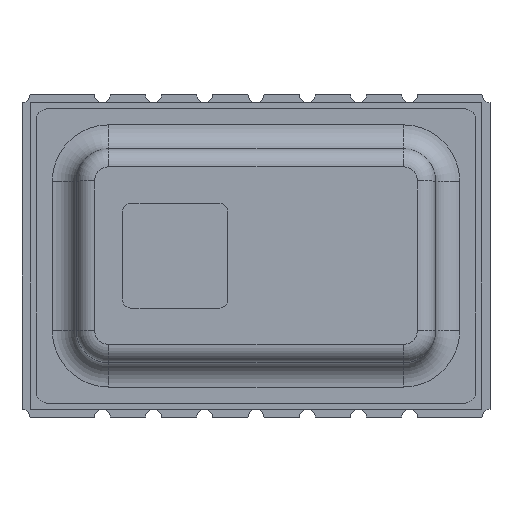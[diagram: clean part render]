
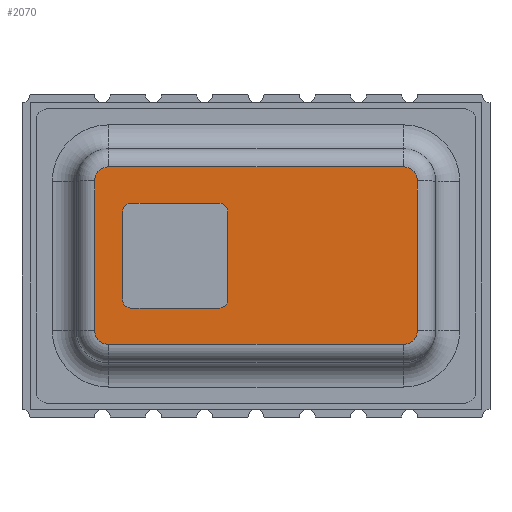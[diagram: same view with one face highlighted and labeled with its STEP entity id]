
A CAD part, top view. The second image highlights one B-rep face of the part: STEP entity #2070.
In plain terms, the highlighted planar face has unit normal (0, 0, 1) as drawn and (0, 0, -1) by its records, which use the part's own axes.
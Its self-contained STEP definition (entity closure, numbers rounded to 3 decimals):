
#21 = EDGE_CURVE ( 'NONE', #1045, #2046, #142, .T. ) ;
#25 = VECTOR ( 'NONE', #321, 1000. ) ;
#47 = ORIENTED_EDGE ( 'NONE', *, *, #1710, .F. ) ;
#85 = ORIENTED_EDGE ( 'NONE', *, *, #3122, .T. ) ;
#95 = ORIENTED_EDGE ( 'NONE', *, *, #2267, .T. ) ;
#98 = ORIENTED_EDGE ( 'NONE', *, *, #115, .F. ) ;
#105 = DIRECTION ( 'NONE',  ( 1., 0., 0. ) ) ;
#115 = EDGE_CURVE ( 'NONE', #354, #1722, #2523, .T. ) ;
#119 = CARTESIAN_POINT ( 'NONE',  ( 3.65, -1.85, 0. ) ) ;
#129 = DIRECTION ( 'NONE',  ( 1., 0., 0. ) ) ;
#136 = FACE_BOUND ( 'NONE', #1872, .T. ) ;
#142 = LINE ( 'NONE', #1856, #3131 ) ;
#203 = CARTESIAN_POINT ( 'NONE',  ( 0., -2.2, 0. ) ) ;
#211 = CARTESIAN_POINT ( 'NONE',  ( -3.3, 1.1, 0. ) ) ;
#224 = VECTOR ( 'NONE', #3250, 1000. ) ;
#237 = VERTEX_POINT ( 'NONE', #1599 ) ;
#309 = CARTESIAN_POINT ( 'NONE',  ( -0.9, -1.1, 0. ) ) ;
#310 = EDGE_CURVE ( 'NONE', #2221, #2654, #1726, .T. ) ;
#316 = CARTESIAN_POINT ( 'NONE',  ( -3.1, -1.1, 0. ) ) ;
#321 = DIRECTION ( 'NONE',  ( -1., 0., 0. ) ) ;
#354 = VERTEX_POINT ( 'NONE', #2916 ) ;
#362 = AXIS2_PLACEMENT_3D ( 'NONE', #1645, #2116, #1383 ) ;
#400 = DIRECTION ( 'NONE',  ( 0., 0., -1. ) ) ;
#408 = CIRCLE ( 'NONE', #3115, 0.2 ) ;
#429 = DIRECTION ( 'NONE',  ( 1., 0., 0. ) ) ;
#435 = CARTESIAN_POINT ( 'NONE',  ( -4., -1.85, 0. ) ) ;
#438 = CARTESIAN_POINT ( 'NONE',  ( -0.7, 1.3, 0. ) ) ;
#454 = FACE_OUTER_BOUND ( 'NONE', #749, .T. ) ;
#477 = DIRECTION ( 'NONE',  ( 1., 0., 0. ) ) ;
#492 = ORIENTED_EDGE ( 'NONE', *, *, #2195, .T. ) ;
#500 = LINE ( 'NONE', #438, #2045 ) ;
#506 = VERTEX_POINT ( 'NONE', #1143 ) ;
#603 = VERTEX_POINT ( 'NONE', #211 ) ;
#614 = DIRECTION ( 'NONE',  ( 0., 0., 1. ) ) ;
#657 = VECTOR ( 'NONE', #1943, 1000. ) ;
#659 = ORIENTED_EDGE ( 'NONE', *, *, #2348, .T. ) ;
#684 = CARTESIAN_POINT ( 'NONE',  ( -4., 1.85, 0. ) ) ;
#749 = EDGE_LOOP ( 'NONE', ( #2682, #3025, #1913, #492, #659, #3097, #95, #85 ) ) ;
#766 = CARTESIAN_POINT ( 'NONE',  ( -0.9, 1.1, 0. ) ) ;
#772 = CIRCLE ( 'NONE', #1949, 0.35 ) ;
#823 = VECTOR ( 'NONE', #3140, 1000. ) ;
#840 = CARTESIAN_POINT ( 'NONE',  ( -0.7, 1.3, 0. ) ) ;
#881 = EDGE_CURVE ( 'NONE', #506, #2791, #2016, .T. ) ;
#905 = CIRCLE ( 'NONE', #3022, 0.35 ) ;
#937 = VERTEX_POINT ( 'NONE', #1673 ) ;
#981 = VERTEX_POINT ( 'NONE', #684 ) ;
#1005 = ORIENTED_EDGE ( 'NONE', *, *, #2337, .T. ) ;
#1045 = VERTEX_POINT ( 'NONE', #1231 ) ;
#1079 = ORIENTED_EDGE ( 'NONE', *, *, #3109, .T. ) ;
#1141 = CARTESIAN_POINT ( 'NONE',  ( 3.65, 1.85, 0. ) ) ;
#1143 = CARTESIAN_POINT ( 'NONE',  ( -3.65, -2.2, 0. ) ) ;
#1145 = DIRECTION ( 'NONE',  ( 0., 0., -1. ) ) ;
#1223 = DIRECTION ( 'NONE',  ( 0., 1., 0. ) ) ;
#1224 = AXIS2_PLACEMENT_3D ( 'NONE', #1141, #400, #1909 ) ;
#1231 = CARTESIAN_POINT ( 'NONE',  ( -3.65, 2.2, 0. ) ) ;
#1250 = CARTESIAN_POINT ( 'NONE',  ( -3.3, -1.1, 0. ) ) ;
#1272 = LINE ( 'NONE', #2620, #2559 ) ;
#1286 = ORIENTED_EDGE ( 'NONE', *, *, #1863, .F. ) ;
#1303 = PLANE ( 'NONE',  #1818 ) ;
#1383 = DIRECTION ( 'NONE',  ( 1., 0., 0. ) ) ;
#1464 = CARTESIAN_POINT ( 'NONE',  ( -3.3, 1.3, 0. ) ) ;
#1560 = DIRECTION ( 'NONE',  ( 1., 0., 0. ) ) ;
#1599 = CARTESIAN_POINT ( 'NONE',  ( -0.7, 1.1, 0. ) ) ;
#1645 = CARTESIAN_POINT ( 'NONE',  ( -3.65, -1.85, 0. ) ) ;
#1673 = CARTESIAN_POINT ( 'NONE',  ( 3.65, -2.2, 0. ) ) ;
#1676 = LINE ( 'NONE', #1464, #2719 ) ;
#1693 = CARTESIAN_POINT ( 'NONE',  ( -4., 0., 0. ) ) ;
#1710 = EDGE_CURVE ( 'NONE', #237, #2771, #500, .T. ) ;
#1714 = CIRCLE ( 'NONE', #3287, 0.2 ) ;
#1722 = VERTEX_POINT ( 'NONE', #2986 ) ;
#1726 = LINE ( 'NONE', #2396, #25 ) ;
#1735 = DIRECTION ( 'NONE',  ( 1., 0., 0. ) ) ;
#1818 = AXIS2_PLACEMENT_3D ( 'NONE', #2141, #614, #3116 ) ;
#1837 = ORIENTED_EDGE ( 'NONE', *, *, #2537, .T. ) ;
#1856 = CARTESIAN_POINT ( 'NONE',  ( 0., 2.2, 0. ) ) ;
#1863 = EDGE_CURVE ( 'NONE', #2485, #603, #1676, .T. ) ;
#1872 = EDGE_LOOP ( 'NONE', ( #98, #1005, #1286, #2630, #3135, #1837, #47, #1079 ) ) ;
#1875 = CIRCLE ( 'NONE', #1224, 0.35 ) ;
#1886 = CARTESIAN_POINT ( 'NONE',  ( -0.9, -1.3, 0. ) ) ;
#1900 = AXIS2_PLACEMENT_3D ( 'NONE', #316, #2106, #2374 ) ;
#1909 = DIRECTION ( 'NONE',  ( 1., 0., 0. ) ) ;
#1913 = ORIENTED_EDGE ( 'NONE', *, *, #2688, .T. ) ;
#1943 = DIRECTION ( 'NONE',  ( 0., 1., 0. ) ) ;
#1949 = AXIS2_PLACEMENT_3D ( 'NONE', #3288, #2540, #477 ) ;
#1987 = DIRECTION ( 'NONE',  ( 0., 0., 1. ) ) ;
#2006 = LINE ( 'NONE', #1693, #657 ) ;
#2016 = CIRCLE ( 'NONE', #362, 0.35 ) ;
#2045 = VECTOR ( 'NONE', #2730, 1000. ) ;
#2046 = VERTEX_POINT ( 'NONE', #2352 ) ;
#2070 = ADVANCED_FACE ( 'NONE', ( #136, #454 ), #1303, .F. ) ;
#2106 = DIRECTION ( 'NONE',  ( 0., 0., 1. ) ) ;
#2116 = DIRECTION ( 'NONE',  ( 0., 0., -1. ) ) ;
#2141 = CARTESIAN_POINT ( 'NONE',  ( 0., 0., 0. ) ) ;
#2195 = EDGE_CURVE ( 'NONE', #2212, #937, #905, .T. ) ;
#2212 = VERTEX_POINT ( 'NONE', #2665 ) ;
#2221 = VERTEX_POINT ( 'NONE', #1886 ) ;
#2267 = EDGE_CURVE ( 'NONE', #2791, #981, #2006, .T. ) ;
#2337 = EDGE_CURVE ( 'NONE', #354, #603, #2450, .T. ) ;
#2343 = CARTESIAN_POINT ( 'NONE',  ( -3.1, -1.3, 0. ) ) ;
#2348 = EDGE_CURVE ( 'NONE', #937, #506, #2686, .T. ) ;
#2349 = DIRECTION ( 'NONE',  ( 0., 0., 1. ) ) ;
#2352 = CARTESIAN_POINT ( 'NONE',  ( 3.65, 2.2, 0. ) ) ;
#2374 = DIRECTION ( 'NONE',  ( 1., 0., 0. ) ) ;
#2396 = CARTESIAN_POINT ( 'NONE',  ( -0.7, -1.3, 0. ) ) ;
#2401 = DIRECTION ( 'NONE',  ( 0., -1., 0. ) ) ;
#2450 = CIRCLE ( 'NONE', #3245, 0.2 ) ;
#2485 = VERTEX_POINT ( 'NONE', #1250 ) ;
#2496 = CARTESIAN_POINT ( 'NONE',  ( -3.1, 1.1, 0. ) ) ;
#2523 = LINE ( 'NONE', #840, #823 ) ;
#2537 = EDGE_CURVE ( 'NONE', #2221, #2771, #1714, .T. ) ;
#2540 = DIRECTION ( 'NONE',  ( 0., 0., -1. ) ) ;
#2559 = VECTOR ( 'NONE', #2401, 1000. ) ;
#2620 = CARTESIAN_POINT ( 'NONE',  ( 4., 0., 0. ) ) ;
#2630 = ORIENTED_EDGE ( 'NONE', *, *, #2746, .T. ) ;
#2654 = VERTEX_POINT ( 'NONE', #2343 ) ;
#2665 = CARTESIAN_POINT ( 'NONE',  ( 4., -1.85, 0. ) ) ;
#2673 = CARTESIAN_POINT ( 'NONE',  ( -0.7, -1.1, 0. ) ) ;
#2682 = ORIENTED_EDGE ( 'NONE', *, *, #21, .T. ) ;
#2686 = LINE ( 'NONE', #203, #224 ) ;
#2688 = EDGE_CURVE ( 'NONE', #3121, #2212, #1272, .T. ) ;
#2719 = VECTOR ( 'NONE', #1223, 1000. ) ;
#2730 = DIRECTION ( 'NONE',  ( 0., -1., 0. ) ) ;
#2746 = EDGE_CURVE ( 'NONE', #2485, #2654, #3255, .T. ) ;
#2768 = CARTESIAN_POINT ( 'NONE',  ( 4., 1.85, 0. ) ) ;
#2771 = VERTEX_POINT ( 'NONE', #2673 ) ;
#2791 = VERTEX_POINT ( 'NONE', #435 ) ;
#2821 = EDGE_CURVE ( 'NONE', #2046, #3121, #1875, .T. ) ;
#2916 = CARTESIAN_POINT ( 'NONE',  ( -3.1, 1.3, 0. ) ) ;
#2965 = DIRECTION ( 'NONE',  ( 0., 0., 1. ) ) ;
#2986 = CARTESIAN_POINT ( 'NONE',  ( -0.9, 1.3, 0. ) ) ;
#3022 = AXIS2_PLACEMENT_3D ( 'NONE', #119, #1145, #129 ) ;
#3025 = ORIENTED_EDGE ( 'NONE', *, *, #2821, .T. ) ;
#3097 = ORIENTED_EDGE ( 'NONE', *, *, #881, .T. ) ;
#3109 = EDGE_CURVE ( 'NONE', #237, #1722, #408, .T. ) ;
#3115 = AXIS2_PLACEMENT_3D ( 'NONE', #766, #1987, #1735 ) ;
#3116 = DIRECTION ( 'NONE',  ( 1., 0., 0. ) ) ;
#3121 = VERTEX_POINT ( 'NONE', #2768 ) ;
#3122 = EDGE_CURVE ( 'NONE', #981, #1045, #772, .T. ) ;
#3131 = VECTOR ( 'NONE', #105, 1000. ) ;
#3135 = ORIENTED_EDGE ( 'NONE', *, *, #310, .F. ) ;
#3140 = DIRECTION ( 'NONE',  ( 1., 0., 0. ) ) ;
#3245 = AXIS2_PLACEMENT_3D ( 'NONE', #2496, #2965, #429 ) ;
#3250 = DIRECTION ( 'NONE',  ( -1., 0., 0. ) ) ;
#3255 = CIRCLE ( 'NONE', #1900, 0.2 ) ;
#3287 = AXIS2_PLACEMENT_3D ( 'NONE', #309, #2349, #1560 ) ;
#3288 = CARTESIAN_POINT ( 'NONE',  ( -3.65, 1.85, 0. ) ) ;
